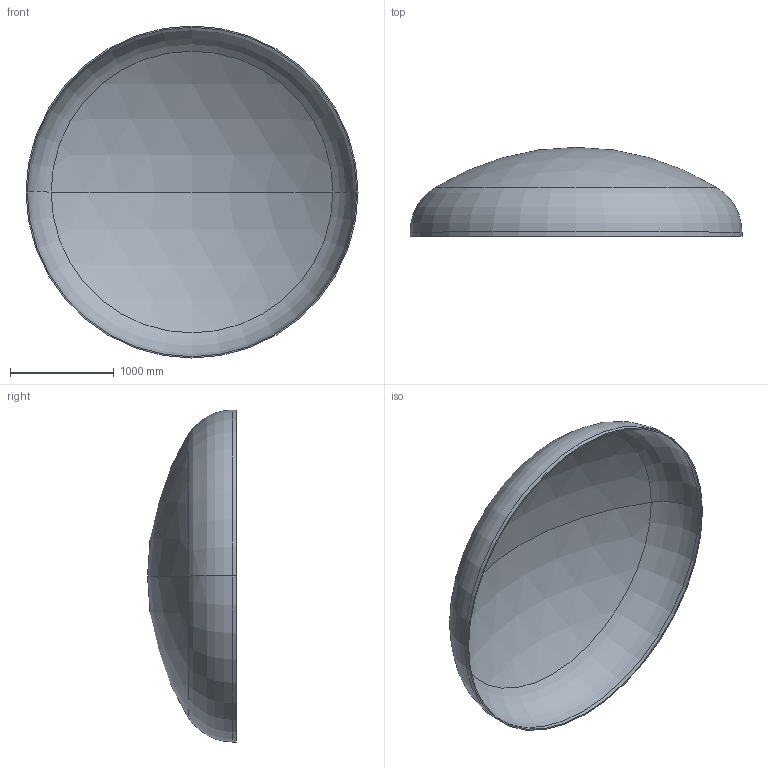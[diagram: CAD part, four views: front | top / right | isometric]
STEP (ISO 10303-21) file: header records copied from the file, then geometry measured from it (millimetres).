
FILE_DESCRIPTION (( 'STEP AP203' ), '1' );
FILE_NAME ('DIN 28013 Korbbogenform_-_Boden DIN 28013 - 3200 x 40 - I - s=12.step', '2016-07-01T18:19:09', ( '' ), ( '' ), 'SwSTEP 2.0', 'SolidWorks 2013', '' );
FILE_SCHEMA (( 'CONFIG_CONTROL_DESIGN' ));
Length unit declared in the file: millimetre
Products named in the file (1): DIN 28013 Korbbogenform_-_Boden DIN 28013 - 3200 x 40 - I - s=12
Bounding box: 3200 x 857.21 x 3200 mm (x, y, z)
Volume: 137671400 mm3; surface area: 23065710.4 mm2
Topology: 1 solids, 1 shells, 13 faces, 24 edges, 14 vertices
Faces by surface type: torus 4, cylinder 4, sphere 4, plane 1
Entity records: 407 total; most frequent: DIRECTION 72, CARTESIAN_POINT 52, ORIENTED_EDGE 48, AXIS2_PLACEMENT_3D 34, EDGE_CURVE 24, CIRCLE 20, VERTEX_POINT 14, EDGE_LOOP 14
